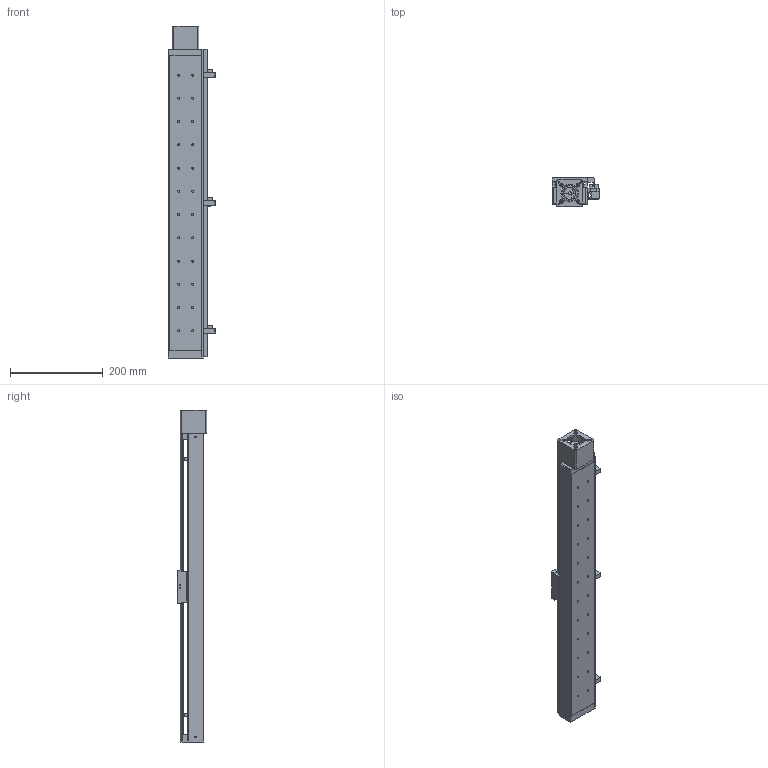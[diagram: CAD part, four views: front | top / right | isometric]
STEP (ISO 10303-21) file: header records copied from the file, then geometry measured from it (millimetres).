
FILE_DESCRIPTION((''),'2;1');
FILE_NAME('E:\uia actuator\UIA actuator 3d- 2009\Standard ball screw actuator\UIA076R9DC\UIA076R9DC-STEP file\with motor mount\UIA076R9DC step file 18Apr16\UIA076R9DC-550-R1205(or R1210)-M23-P13-C10-S.stp','2016-04-20T09:35:19',('h029'),(''),'Autodesk Inventor 11','Autodesk Inventor 11','');
FILE_SCHEMA(('AUTOMOTIVE_DESIGN { 1 0 10303 214 1 1 1 1 }'));
Length unit declared in the file: millimetre
Products named in the file (10): UIA076R9DC-550-R1205(or R1210)-M23-P13-C10-S; UIA076R9DC-550-BODY; UIA076R9DC-550-sensor rail; UIA076R9DC-CARRIAGE; UIA076R9DC-SENSOR FLAG; 01-100 0110 Motor MOUNT-M23; SOH-25C; SOH-25C-2; SOH-25C-3; SOH-25C-1
Assembly tree (9 placements, depth 3):
  UIA076R9DC-550-R1205(or R1210)-M23-P13-C10-S
    UIA076R9DC-550-BODY
    UIA076R9DC-550-sensor rail
    UIA076R9DC-CARRIAGE
    UIA076R9DC-SENSOR FLAG
    01-100 0110 Motor MOUNT-M23
    SOH-25C
      SOH-25C-2
      SOH-25C-3
      SOH-25C-1
Bounding box: 103 x 63 x 714 mm (x, y, z)
Volume: 1033382.3 mm3; surface area: 420659.3 mm2
Topology: 8 solids, 8 shells, 452 faces, 1239 edges, 816 vertices
Faces by surface type: plane 299, cylinder 125, cone 21, bspline 7
Full cylindrical faces by diameter (mm): 2.459 x8, 3 x2, 3.242 x16, 3.5 x4, 4 x6, 4.5 x28, 6 x2, 7.5 x28, 22 x1, 25.5 x3, 32 x1, 37 x1, 38.1 x1
Entity records: 14170 total; most frequent: CARTESIAN_POINT 2776, DIRECTION 2274, ORIENTED_EDGE 2128, EDGE_CURVE 1064, VERTEX_POINT 769, VECTOR 760, LINE 760, AXIS2_PLACEMENT_3D 757
